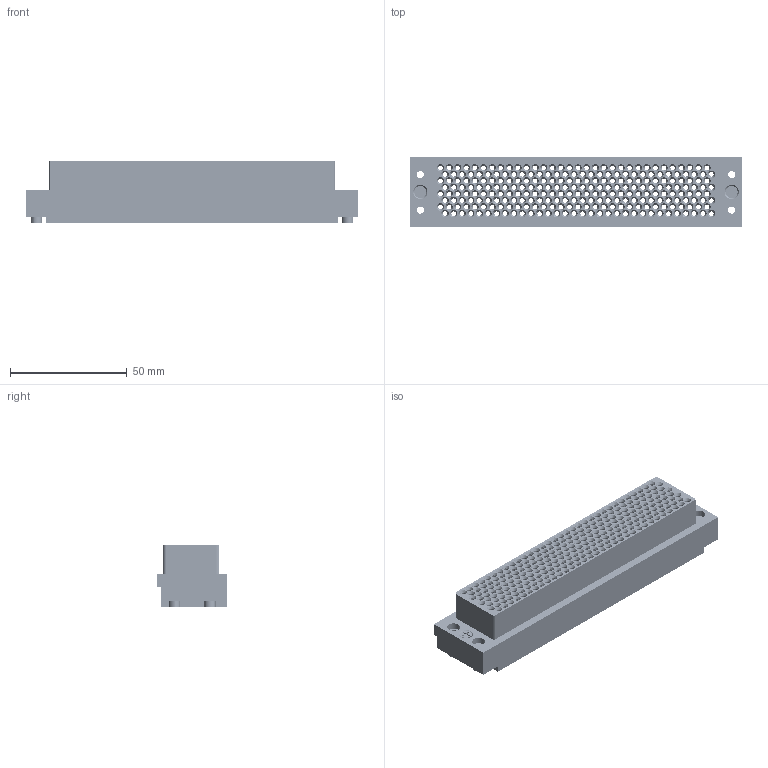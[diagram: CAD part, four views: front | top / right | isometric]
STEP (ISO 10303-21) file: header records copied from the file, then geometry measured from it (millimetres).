
FILE_DESCRIPTION(/* description */ (''),/* implementation_level */ '2;1');
FILE_NAME(/* name */ 'F:\CAD\CAD COMPLETE\web site project\Receiver Modules\70125600R-01-RevA-STP\70125600R-01-RevA-STP.stp',/* time_stamp */ '2014-08-06T11:16:47+01:00',/* author */ ('davecooper'),/* organization */ (''),/* preprocessor_version */ 'ST-DEVELOPER v15.2',/* originating_system */ 'Autodesk Inventor 2014',/* authorisation */ '');
FILE_SCHEMA (('AUTOMOTIVE_DESIGN { 1 0 10303 214 3 1 1 }'));
Products named in the file (1): 70125600R-01_SOLID
Bounding box: 142.24 x 29.97 x 26.92 mm (x, y, z)
Volume: 59982.4 mm3; surface area: 63628.6 mm2
Topology: 5 solids, 5 shells, 2410 faces, 5591 edges, 3552 vertices
Faces by surface type: cylinder 868, plane 687, cone 520, bspline 335
Full cylindrical faces by diameter (mm): 1.905 x256, 2.057 x512, 2.261 x4, 2.385 x2, 2.845 x2, 3.048 x4, 3.175 x27, 3.277 x8, 3.427 x25, 4.877 x4, 4.953 x4, 5.563 x4
Entity records: 65949 total; most frequent: CARTESIAN_POINT 14479, DIRECTION 9897, ORIENTED_EDGE 8380, EDGE_LOOP 5181, AXIS2_PLACEMENT_3D 4301, EDGE_CURVE 4190, VERTEX_POINT 3523, FACE_BOUND 2817
